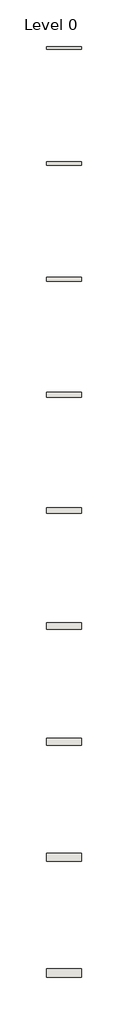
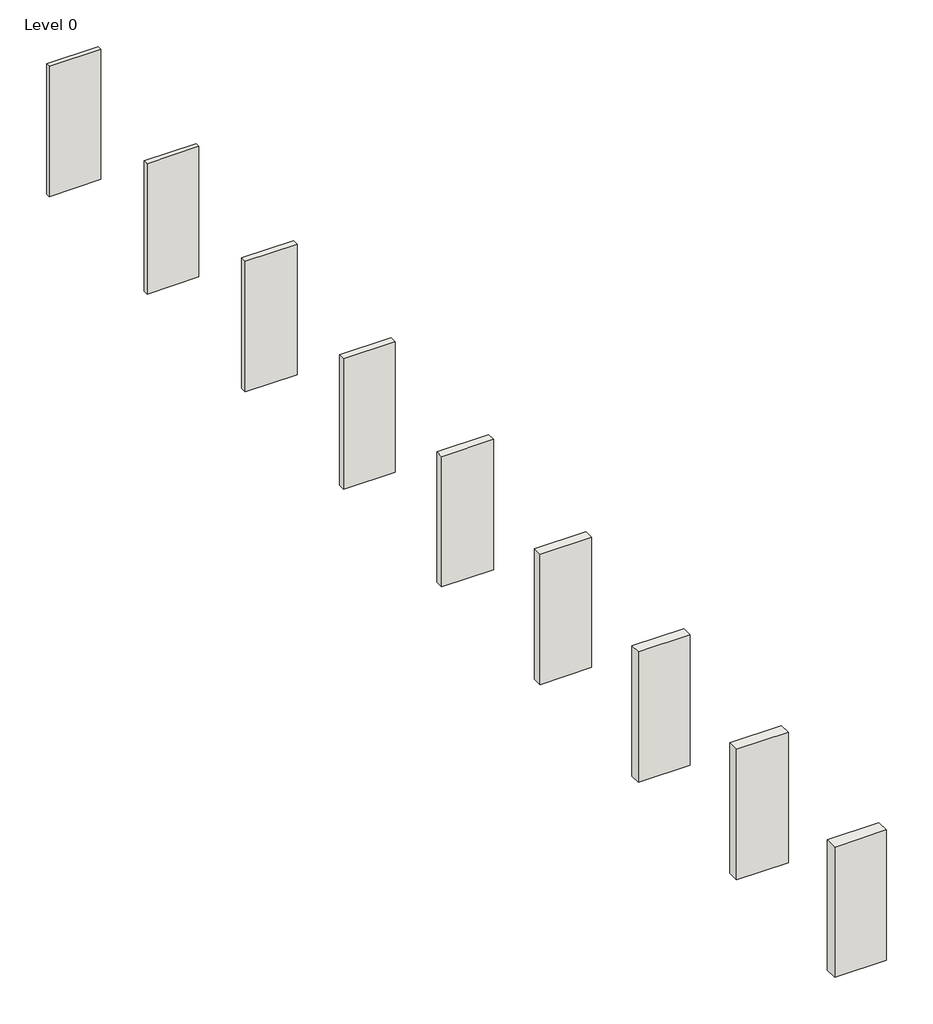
# One storey, incomplete: 9 walls.
"""IFC4 building model written with IfcOpenShell, lengths in millimetres."""

from ifc_helpers import new_model, si_unit, origin, origin_with_axes, place, context, project, spatial, polyline, outline, extrude, element, save

model = new_model("IFC4")

# Units and contexts
model_context = context("Model", 3, world=origin())
ifc_project = project(units=[si_unit("LENGTHUNIT", "METRE", prefix="MILLI")], contexts=[model_context])

# Site, building, storey
site = spatial("IfcSite", under=ifc_project)
building = spatial("IfcBuilding", under=site)
storey = spatial("IfcBuildingStorey", under=building, Name="Level 0", Elevation=0.0)

# Walls
placement = place(None, origin())
element("IfcWall", 1, ObjectType="Kingspan Kooltherm® K18 Insulated Plasterboard - 37.5mm", at=placement, inside=storey, context=model_context, shape_type="SweptSolid", body=[
    extrude(outline(polyline([(-4933.3075246, 5645.8831063), (-4483.3075246, 5645.8831063), (-4483.3075246, 5608.3831063), (-4933.3075246, 5608.3831063), (-4933.3075246, 5645.8831063)])), origin_with_axes(), (0.0, 0.0, 1.0), 1200.0),
])
element("IfcWall", 2, ObjectType="Kingspan Kooltherm® K18 Insulated Plasterboard - 42.5mm", at=placement, inside=storey, context=model_context, shape_type="SweptSolid", body=[
    extrude(outline(polyline([(-4933.3075246, 4171.820559), (-4483.3075246, 4171.820559), (-4483.3075246, 4129.320559), (-4933.3075246, 4129.320559), (-4933.3075246, 4171.820559)])), origin_with_axes(), (0.0, 0.0, 1.0), 1200.0),
])
element("IfcWall", 3, ObjectType="Kingspan Kooltherm® K18 Insulated Plasterboard - 52.5mm", at=placement, inside=storey, context=model_context, shape_type="SweptSolid", body=[
    extrude(outline(polyline([(-4933.3075246, 2700.2580118), (-4483.3075246, 2700.2580118), (-4483.3075246, 2647.7580118), (-4933.3075246, 2647.7580118), (-4933.3075246, 2700.2580118)])), origin_with_axes(), (0.0, 0.0, 1.0), 1200.0),
])
element("IfcWall", 4, ObjectType="Kingspan Kooltherm® K18 Insulated Plasterboard - 62.5mm", at=placement, inside=storey, context=model_context, shape_type="SweptSolid", body=[
    extrude(outline(polyline([(-4933.3075246, 1228.6954645), (-4483.3075246, 1228.6954645), (-4483.3075246, 1166.1954645), (-4933.3075246, 1166.1954645), (-4933.3075246, 1228.6954645)])), origin_with_axes(), (0.0, 0.0, 1.0), 1200.0),
])
element("IfcWall", 5, ObjectType="Kingspan Kooltherm® K18 Insulated Plasterboard - 72.5mm", at=placement, inside=storey, context=model_context, shape_type="SweptSolid", body=[
    extrude(outline(polyline([(-4933.3075246, -242.8670827), (-4483.3075246, -242.8670827), (-4483.3075246, -315.3670827), (-4933.3075246, -315.3670827), (-4933.3075246, -242.8670827)])), origin_with_axes(), (0.0, 0.0, 1.0), 1200.0),
])
element("IfcWall", 6, ObjectType="Kingspan Kooltherm® K18 Insulated Plasterboard - 82.5mm", at=placement, inside=storey, context=model_context, shape_type="SweptSolid", body=[
    extrude(outline(polyline([(-4933.3075246, -1714.42963), (-4483.3075246, -1714.42963), (-4483.3075246, -1796.92963), (-4933.3075246, -1796.92963), (-4933.3075246, -1714.42963)])), origin_with_axes(), (0.0, 0.0, 1.0), 1200.0),
])
element("IfcWall", 7, ObjectType="Kingspan Kooltherm® K18 Insulated Plasterboard - 92.5mm", at=placement, inside=storey, context=model_context, shape_type="SweptSolid", body=[
    extrude(outline(polyline([(-4933.3075246, -3185.9921772), (-4483.3075246, -3185.9921772), (-4483.3075246, -3278.4921772), (-4933.3075246, -3278.4921772), (-4933.3075246, -3185.9921772)])), origin_with_axes(), (0.0, 0.0, 1.0), 1200.0),
])
element("IfcWall", 8, ObjectType="Kingspan Kooltherm® K18 Insulated Plasterboard - 102.5mm", at=placement, inside=storey, context=model_context, shape_type="SweptSolid", body=[
    extrude(outline(polyline([(-4933.3075246, -4657.5547245), (-4483.3075246, -4657.5547245), (-4483.3075246, -4760.0547245), (-4933.3075246, -4760.0547245), (-4933.3075246, -4657.5547245)])), origin_with_axes(), (0.0, 0.0, 1.0), 1200.0),
])
element("IfcWall", 9, ObjectType="Kingspan Kooltherm® K18 Insulated Plasterboard - 112.5mm", at=placement, inside=storey, context=model_context, shape_type="SweptSolid", body=[
    extrude(outline(polyline([(-4933.3075246, -6129.1172717), (-4483.3075246, -6129.1172717), (-4483.3075246, -6241.6172717), (-4933.3075246, -6241.6172717), (-4933.3075246, -6129.1172717)])), origin_with_axes(), (0.0, 0.0, 1.0), 1200.0),
])

save(model, "model.ifc")
